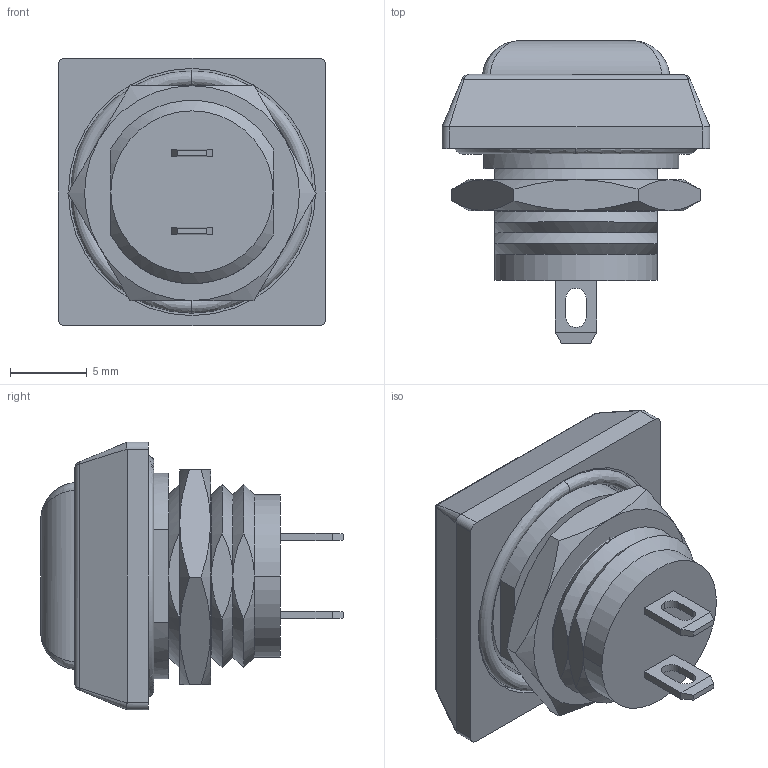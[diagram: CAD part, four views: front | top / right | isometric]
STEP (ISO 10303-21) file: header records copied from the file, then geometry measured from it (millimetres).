
FILE_DESCRIPTION (( 'STEP AP214' ), '1' );
FILE_NAME ('59-21X.STEP', '2015-07-07T15:45:13', ( 'Admin' ), ( 'Microsoft' ), 'SwSTEP 2.0', 'SolidWorks 2015', '' );
FILE_SCHEMA (( 'AUTOMOTIVE_DESIGN' ));
Length unit declared in the file: millimetre
Products named in the file (2): 59-21X
Bounding box: 17.45 x 19.7 x 17.45 mm (x, y, z)
Volume: 2567.7 mm3; surface area: 2180.7 mm2
Topology: 3 solids, 3 shells, 160 faces, 369 edges, 212 vertices
Faces by surface type: plane 63, cone 41, cylinder 36, bspline 20
Entity records: 7499 total; most frequent: CARTESIAN_POINT 2308, ORIENTED_EDGE 722, DIRECTION 655, EDGE_CURVE 361, AXIS2_PLACEMENT_3D 252, VERTEX_POINT 212, EDGE_LOOP 173, UNCERTAINTY_MEASURE_WITH_UNIT 165
